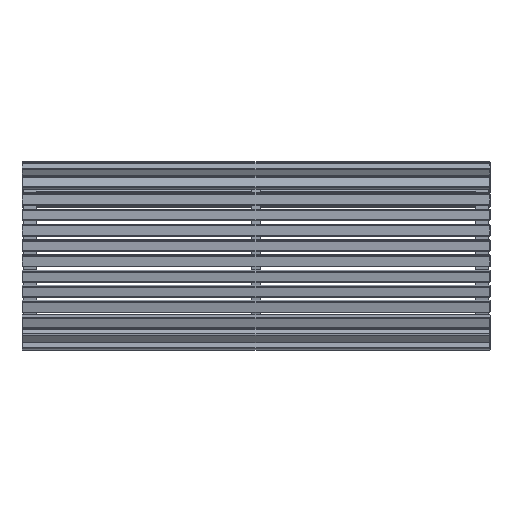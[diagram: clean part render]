
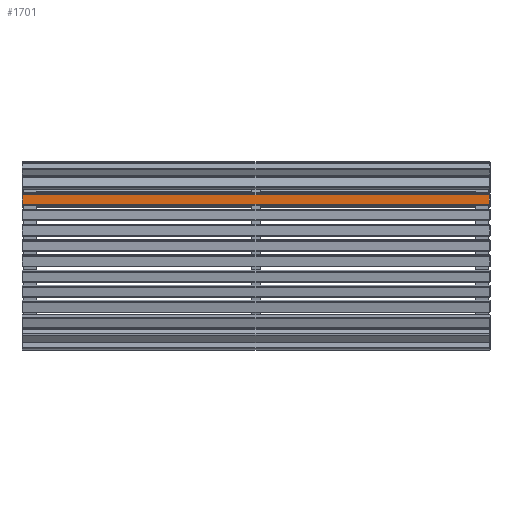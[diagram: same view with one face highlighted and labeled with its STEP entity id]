
A CAD part, top view. The second image highlights one B-rep face of the part: STEP entity #1701.
In plain terms, the highlighted planar face has unit normal (0, -0.007, 1).
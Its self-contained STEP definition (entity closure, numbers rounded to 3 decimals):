
#1701=ADVANCED_FACE('',(#2671),#13863,.T.);
#2671=FACE_OUTER_BOUND('',#3641,.T.);
#3641=EDGE_LOOP('',(#5768,#5769,#5770,#5771));
#5768=ORIENTED_EDGE('',*,*,#9370,.F.);
#5769=ORIENTED_EDGE('',*,*,#9368,.F.);
#5770=ORIENTED_EDGE('',*,*,#9371,.F.);
#5771=ORIENTED_EDGE('',*,*,#9369,.F.);
#9368=EDGE_CURVE('',#12849,#12848,#11348,.T.);
#9369=EDGE_CURVE('',#12850,#12851,#11349,.T.);
#9370=EDGE_CURVE('',#12848,#12850,#11350,.T.);
#9371=EDGE_CURVE('',#12851,#12849,#11351,.T.);
#11348=B_SPLINE_CURVE_WITH_KNOTS('',1,(#18894,#18895),.UNSPECIFIED.,.F.,
 .F.,(2,2),(-43.2,14.2),.UNSPECIFIED.);
#11349=B_SPLINE_CURVE_WITH_KNOTS('',1,(#18896,#18897),.UNSPECIFIED.,.F.,
 .F.,(2,2),(-43.2,14.2),.UNSPECIFIED.);
#11350=B_SPLINE_CURVE_WITH_KNOTS('',1,(#18898,#18899),.UNSPECIFIED.,.F.,
 .F.,(2,2),(-2.85,0.75),.UNSPECIFIED.);
#11351=B_SPLINE_CURVE_WITH_KNOTS('',1,(#18900,#18901),.UNSPECIFIED.,.F.,
 .F.,(2,2),(-2.85,0.75),.UNSPECIFIED.);
#12848=VERTEX_POINT('',#18866);
#12849=VERTEX_POINT('',#18867);
#12850=VERTEX_POINT('',#18868);
#12851=VERTEX_POINT('',#18869);
#13863=PLANE('',#14375);
#14375=AXIS2_PLACEMENT_3D('',#18713,#14870,$);
#14870=DIRECTION('',(0.,-0.007,1.));
#18713=CARTESIAN_POINT('',(1747.03,545.16,443.551));
#18866=CARTESIAN_POINT('',(3.,545.17,443.551));
#18867=CARTESIAN_POINT('',(1747.,545.17,443.551));
#18868=CARTESIAN_POINT('',(3.,581.169,443.807));
#18869=CARTESIAN_POINT('',(1747.,581.169,443.807));
#18894=CARTESIAN_POINT('',(1747.,545.17,443.551));
#18895=CARTESIAN_POINT('',(3.,545.17,443.551));
#18896=CARTESIAN_POINT('',(3.,581.169,443.807));
#18897=CARTESIAN_POINT('',(1747.,581.169,443.807));
#18898=CARTESIAN_POINT('',(3.,545.17,443.551));
#18899=CARTESIAN_POINT('',(3.,581.169,443.807));
#18900=CARTESIAN_POINT('',(1747.,581.169,443.807));
#18901=CARTESIAN_POINT('',(1747.,545.17,443.551));
